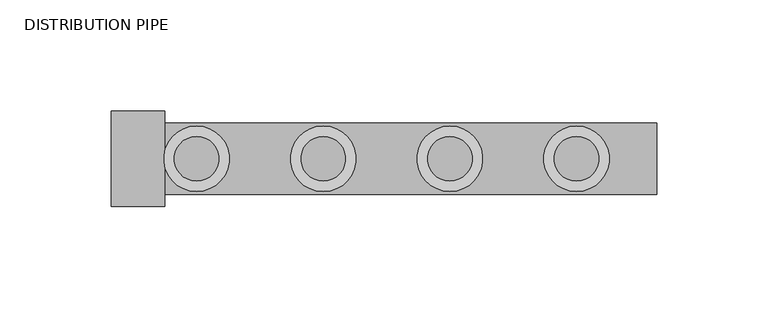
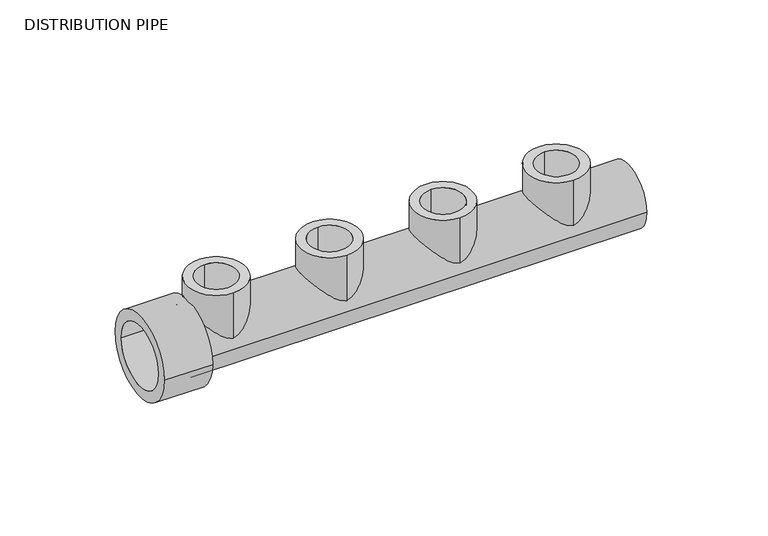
"""IFC4 building model written with IfcOpenShell, lengths in millimetres: pipe fitting geometry, Aquatherm - Distribution Pipe : DISTRIBUTION PIPE."""

from ifc_helpers import new_model, si_unit, point, frame, frame_2d, origin, origin_with_axes, origin_2d, place, context, project, spatial, circle_curve, trimmed, segment, composite_curve, outline, extrude, source, transform, mapped, element, save


def distribution_pipe_83ea2fc3(model_context):
    return source(origin(), model_context, "Body", "SweptSolid", [
        extrude(outline(composite_curve([segment(trimmed(circle_curve(frame_2d((-84.201, 0.0)), 14.732), [point((-84.201, 14.732))], [point((-84.201, -14.732))], False, "CARTESIAN"), True, "CONTINUOUS"), segment(trimmed(circle_curve(frame_2d((-84.201, 0.0)), 14.732), [point((-84.201, -14.732))], [point((-84.201, 14.732))], False, "CARTESIAN"), True, "CONTINUOUS")], self_intersect=False), holes=[composite_curve([segment(trimmed(circle_curve(frame_2d((-84.201, 0.0)), 10.033), [point((-84.201, 10.033))], [point((-84.201, -10.033))], True, "CARTESIAN"), True, "CONTINUOUS"), segment(trimmed(circle_curve(frame_2d((-84.201, 0.0)), 10.033), [point((-84.201, -10.033))], [point((-84.201, 10.033))], True, "CARTESIAN"), True, "CONTINUOUS")], self_intersect=False)]), origin_with_axes(), (0.0, 0.0, 1.0), 28.956),
        extrude(outline(composite_curve([segment(trimmed(circle_curve(frame_2d((-27.305, 0.0)), 14.732), [point((-27.305, 14.732))], [point((-27.305, -14.732))], False, "CARTESIAN"), True, "CONTINUOUS"), segment(trimmed(circle_curve(frame_2d((-27.305, 0.0)), 14.732), [point((-27.305, -14.732))], [point((-27.305, 14.732))], False, "CARTESIAN"), True, "CONTINUOUS")], self_intersect=False), holes=[composite_curve([segment(trimmed(circle_curve(frame_2d((-27.305, 0.0)), 10.033), [point((-27.305, 10.033))], [point((-27.305, -10.033))], True, "CARTESIAN"), True, "CONTINUOUS"), segment(trimmed(circle_curve(frame_2d((-27.305, 0.0)), 10.033), [point((-27.305, -10.033))], [point((-27.305, 10.033))], True, "CARTESIAN"), True, "CONTINUOUS")], self_intersect=False)]), origin_with_axes(), (0.0, 0.0, 1.0), 28.956),
        extrude(outline(composite_curve([segment(trimmed(circle_curve(frame_2d((29.591, 0.0)), 14.732), [point((29.591, 14.732))], [point((29.591, -14.732))], False, "CARTESIAN"), True, "CONTINUOUS"), segment(trimmed(circle_curve(frame_2d((29.591, 0.0)), 14.732), [point((29.591, -14.732))], [point((29.591, 14.732))], False, "CARTESIAN"), True, "CONTINUOUS")], self_intersect=False), holes=[composite_curve([segment(trimmed(circle_curve(frame_2d((29.591, 0.0)), 10.033), [point((29.591, 10.033))], [point((29.591, -10.033))], True, "CARTESIAN"), True, "CONTINUOUS"), segment(trimmed(circle_curve(frame_2d((29.591, 0.0)), 10.033), [point((29.591, -10.033))], [point((29.591, 10.033))], True, "CARTESIAN"), True, "CONTINUOUS")], self_intersect=False)]), origin_with_axes(), (0.0, 0.0, 1.0), 28.956),
        extrude(outline(composite_curve([segment(trimmed(circle_curve(frame_2d((86.487, 0.0)), 14.732), [point((86.487, 14.732))], [point((86.487, -14.732))], False, "CARTESIAN"), True, "CONTINUOUS"), segment(trimmed(circle_curve(frame_2d((86.487, 0.0)), 14.732), [point((86.487, -14.732))], [point((86.487, 14.732))], False, "CARTESIAN"), True, "CONTINUOUS")], self_intersect=False), holes=[composite_curve([segment(trimmed(circle_curve(frame_2d((86.487, 0.0)), 10.033), [point((86.487, 10.033))], [point((86.487, -10.033))], True, "CARTESIAN"), True, "CONTINUOUS"), segment(trimmed(circle_curve(frame_2d((86.487, 0.0)), 10.033), [point((86.487, -10.033))], [point((86.487, 10.033))], True, "CARTESIAN"), True, "CONTINUOUS")], self_intersect=False)]), origin_with_axes(), (0.0, 0.0, 1.0), 28.956),
        extrude(outline(composite_curve([segment(trimmed(circle_curve(origin_2d(), 16.002), [point((16.002, 0.0))], [point((-16.002, 0.0))], False, "CARTESIAN"), True, "CONTINUOUS"), segment(trimmed(circle_curve(origin_2d(), 16.002), [point((-16.002, 0.0))], [point((16.002, 0.0))], False, "CARTESIAN"), True, "CONTINUOUS")], self_intersect=False), holes=[composite_curve([segment(trimmed(circle_curve(origin_2d(), 11.43), [point((11.43, 0.0))], [point((-11.43, 0.0))], True, "CARTESIAN"), True, "CONTINUOUS"), segment(trimmed(circle_curve(origin_2d(), 11.43), [point((-11.43, 0.0))], [point((11.43, 0.0))], True, "CARTESIAN"), True, "CONTINUOUS")], self_intersect=False)]), frame((-106.299, 0.0, 0.0), z_axis=(1.0, 0.0, 0.0), x_axis=(0.0, 1.0, 0.0)), (0.0, 0.0, 1.0), 228.854),
        extrude(outline(composite_curve([segment(trimmed(circle_curve(origin_2d(), 21.463), [point((21.463, 0.0))], [point((-21.463, 0.0))], False, "CARTESIAN"), True, "CONTINUOUS"), segment(trimmed(circle_curve(origin_2d(), 21.463), [point((-21.463, 0.0))], [point((21.463, 0.0))], False, "CARTESIAN"), True, "CONTINUOUS")], self_intersect=False), holes=[composite_curve([segment(trimmed(circle_curve(origin_2d(), 16.002), [point((16.002, 0.0))], [point((-16.002, 0.0))], True, "CARTESIAN"), True, "CONTINUOUS"), segment(trimmed(circle_curve(origin_2d(), 16.002), [point((-16.002, 0.0))], [point((16.002, 0.0))], True, "CARTESIAN"), True, "CONTINUOUS")], self_intersect=False)]), frame((-122.555, 0.0, 0.0), z_axis=(1.0, 0.0, 0.0), x_axis=(0.0, 1.0, 0.0)), (0.0, 0.0, 1.0), 24.13),
    ])


if __name__ == "__main__":
    model = new_model("IFC4")
    model_context = context("Model", 3, world=origin())
    ifc_project = project(units=[si_unit("LENGTHUNIT", "METRE", prefix="MILLI")], contexts=[model_context])
    site = spatial("IfcSite", under=ifc_project)
    building = spatial("IfcBuilding", under=site)
    placement = place(None, origin())
    distribution_pipe_shape = distribution_pipe_83ea2fc3(model_context)
    element("IfcPipeFitting", 1, ObjectType="Aquatherm - Distribution Pipe : DISTRIBUTION PIPE", at=placement, inside=building, context=model_context, shape_type="MappedRepresentation", body=[
        mapped(distribution_pipe_shape, transform((0.0, 0.0, 0.0), x_axis=(1.0, 0.0, 0.0), y_axis=(0.0, 1.0, 0.0), z_axis=(0.0, 0.0, 1.0))),
    ])
    save(model, "model.ifc")
